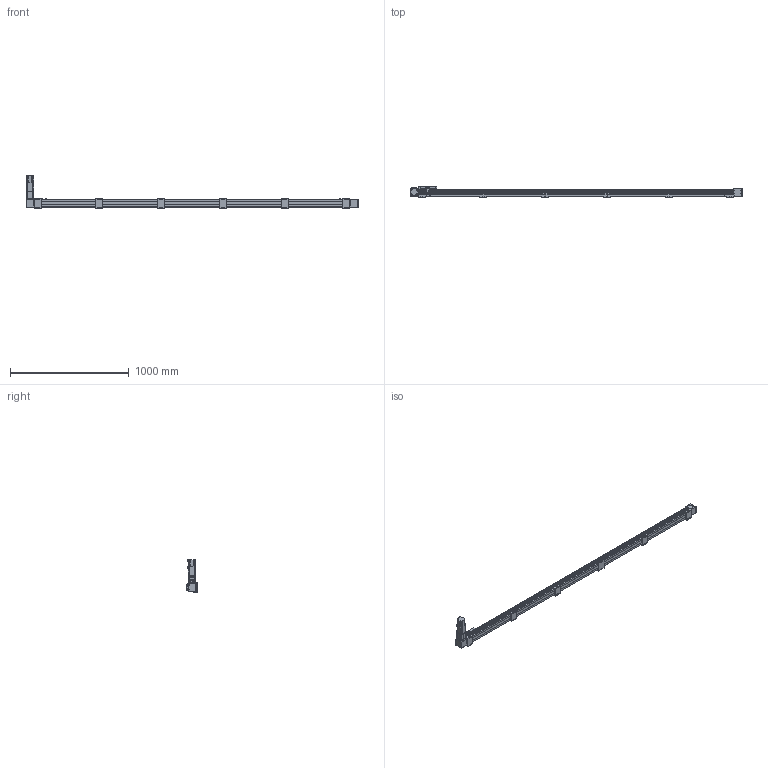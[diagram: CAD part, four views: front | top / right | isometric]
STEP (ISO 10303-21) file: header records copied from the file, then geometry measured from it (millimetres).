
FILE_DESCRIPTION(/* description */ ('STEP AP203'),/* implementation_level */ '2;1');
FILE_NAME(/* name */ 'SK60-P13-S2500-BL-T40-C1-N(0)',/* time_stamp */ '2023-04-06T03:38:00+02:00',/* author */ ('License CC BY-ND 4.0'),/* organization */ ('CADENAS'),/* preprocessor_version */ 'ST-DEVELOPER v19.3',/* originating_system */ 'PARTsolutions',/* authorisation */ ' ');
FILE_SCHEMA (('CONFIG_CONTROL_DESIGN'));
Length unit declared in the file: millimetre
Products named in the file (11): SK60-P13-S2500-BL-T40-C1-N(0); PSC140-sensor; SK60-S450_seat; SK60-S450-BL-C1_slider; SK60_body3; SK60_body6; SK60-BL_body2; T40-p1; SK60_body5; SK60_body4; SK60-S2500-BL-C1_body
Assembly tree (21 placements, depth 2):
  SK60-P13-S2500-BL-T40-C1-N(0)
    PSC140-sensor  x3
    SK60-S450_seat  x6
    SK60-S450-BL-C1_slider
    SK60_body3  x3
    SK60_body6  x2
    SK60-BL_body2  x2
    T40-p1
    SK60_body5
    SK60_body4
    SK60-S2500-BL-C1_body
Bounding box: 2800 x 90 x 278.2 mm (x, y, z)
Volume: 10157572.8 mm3; surface area: 1248692.3 mm2
Topology: 21 solids, 25 shells, 1010 faces, 2501 edges, 1650 vertices
Faces by surface type: plane 640, cylinder 330, cone 38, torus 2
Full cylindrical faces by diameter (mm): 2.8 x3, 3.3 x4, 4.2 x8, 4.5 x26, 4.6 x3, 4.917 x32, 5 x2, 5.478 x4, 5.5 x35, 6.5 x12, 8 x4, 8.5 x4, 9.988 x4, 10 x24, 13.556 x1, 14 x1, 14.586 x1, 19.692 x1, 38.432 x2, 43 x1, 44 x3, 47 x2, 50 x2
Entity records: 19403 total; most frequent: DIRECTION 3300, CARTESIAN_POINT 3293, ORIENTED_EDGE 3050, EDGE_CURVE 1525, AXIS2_PLACEMENT_3D 1104, LINE 1092, VECTOR 1092, VERTEX_POINT 1077
